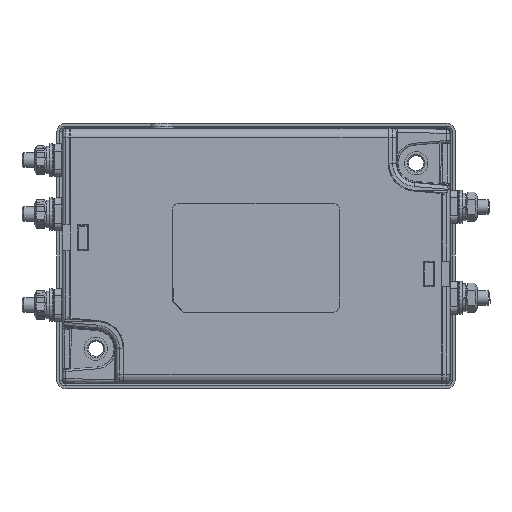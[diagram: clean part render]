
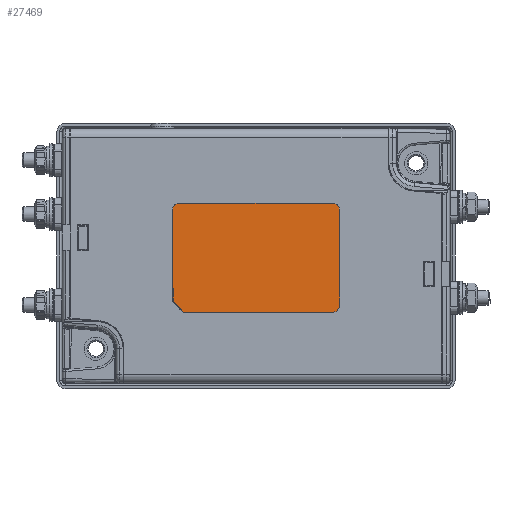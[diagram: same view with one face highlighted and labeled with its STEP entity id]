
A CAD part, top view. The second image highlights one B-rep face of the part: STEP entity #27469.
In plain terms, the highlighted planar face has unit normal (0, 0, 1).
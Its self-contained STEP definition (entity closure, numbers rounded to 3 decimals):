
#1782=PLANE('',#29805);
#2914=FACE_OUTER_BOUND('',#4528,.T.);
#4528=EDGE_LOOP('',(#21270,#21271,#21272,#21273,#21274,#21275,#21276,#21277));
#5778=CIRCLE('',#29806,2.);
#5779=CIRCLE('',#29807,2.);
#5780=CIRCLE('',#29808,2.);
#7486=LINE('',#46915,#9586);
#7487=LINE('',#46919,#9587);
#7488=LINE('',#46923,#9588);
#7489=LINE('',#46925,#9589);
#7490=LINE('',#46926,#9590);
#9586=VECTOR('',#35579,10.);
#9587=VECTOR('',#35582,10.);
#9588=VECTOR('',#35585,10.);
#9589=VECTOR('',#35586,10.);
#9590=VECTOR('',#35587,10.);
#11974=VERTEX_POINT('',#46911);
#11975=VERTEX_POINT('',#46912);
#11976=VERTEX_POINT('',#46914);
#11977=VERTEX_POINT('',#46916);
#11978=VERTEX_POINT('',#46918);
#11979=VERTEX_POINT('',#46920);
#11980=VERTEX_POINT('',#46922);
#11981=VERTEX_POINT('',#46924);
#15234=EDGE_CURVE('',#11974,#11975,#5778,.T.);
#15235=EDGE_CURVE('',#11976,#11974,#7486,.T.);
#15236=EDGE_CURVE('',#11977,#11976,#5779,.T.);
#15237=EDGE_CURVE('',#11978,#11977,#7487,.T.);
#15238=EDGE_CURVE('',#11979,#11978,#5780,.T.);
#15239=EDGE_CURVE('',#11980,#11979,#7488,.T.);
#15240=EDGE_CURVE('',#11981,#11980,#7489,.T.);
#15241=EDGE_CURVE('',#11975,#11981,#7490,.T.);
#21270=ORIENTED_EDGE('',*,*,#15234,.F.);
#21271=ORIENTED_EDGE('',*,*,#15235,.F.);
#21272=ORIENTED_EDGE('',*,*,#15236,.F.);
#21273=ORIENTED_EDGE('',*,*,#15237,.F.);
#21274=ORIENTED_EDGE('',*,*,#15238,.F.);
#21275=ORIENTED_EDGE('',*,*,#15239,.F.);
#21276=ORIENTED_EDGE('',*,*,#15240,.F.);
#21277=ORIENTED_EDGE('',*,*,#15241,.F.);
#27469=ADVANCED_FACE('',(#2914),#1782,.T.);
#29805=AXIS2_PLACEMENT_3D('',#46910,#35575,#35576);
#29806=AXIS2_PLACEMENT_3D('',#46913,#35577,#35578);
#29807=AXIS2_PLACEMENT_3D('',#46917,#35580,#35581);
#29808=AXIS2_PLACEMENT_3D('',#46921,#35583,#35584);
#35575=DIRECTION('center_axis',(0.,0.,
1.));
#35576=DIRECTION('ref_axis',(0.,-1.,0.));
#35577=DIRECTION('center_axis',(0.,0.,
-1.));
#35578=DIRECTION('ref_axis',(0.707,-0.707,0.));
#35579=DIRECTION('',(0.,-1.,0.));
#35580=DIRECTION('center_axis',(0.,0.,
-1.));
#35581=DIRECTION('ref_axis',(0.707,0.707,0.));
#35582=DIRECTION('',(1.,0.,0.));
#35583=DIRECTION('center_axis',(0.,0.,
-1.));
#35584=DIRECTION('ref_axis',(-0.707,0.707,0.));
#35585=DIRECTION('',(0.,1.,0.));
#35586=DIRECTION('',(-0.707,0.707,0.));
#35587=DIRECTION('',(-1.,0.,0.));
#46910=CARTESIAN_POINT('Origin',(0.,-0.525,
35.1));
#46911=CARTESIAN_POINT('',(23.,-13.525,35.1));
#46912=CARTESIAN_POINT('',(21.,-15.525,35.1));
#46913=CARTESIAN_POINT('Origin',(21.,-13.525,35.1));
#46914=CARTESIAN_POINT('',(23.,12.475,35.1));
#46915=CARTESIAN_POINT('',(23.,-15.525,35.1));
#46916=CARTESIAN_POINT('',(21.,14.475,35.1));
#46917=CARTESIAN_POINT('Origin',(21.,12.475,35.1));
#46918=CARTESIAN_POINT('',(-21.,14.475,35.1));
#46919=CARTESIAN_POINT('',(23.,14.475,35.1));
#46920=CARTESIAN_POINT('',(-23.,12.475,35.1));
#46921=CARTESIAN_POINT('Origin',(-21.,12.475,35.1));
#46922=CARTESIAN_POINT('',(-23.,-12.525,35.1));
#46923=CARTESIAN_POINT('',(-23.,14.475,35.1));
#46924=CARTESIAN_POINT('',(-20.,-15.525,35.1));
#46925=CARTESIAN_POINT('',(-19.5,-16.025,35.1));
#46926=CARTESIAN_POINT('',(-23.,-15.525,35.1));
